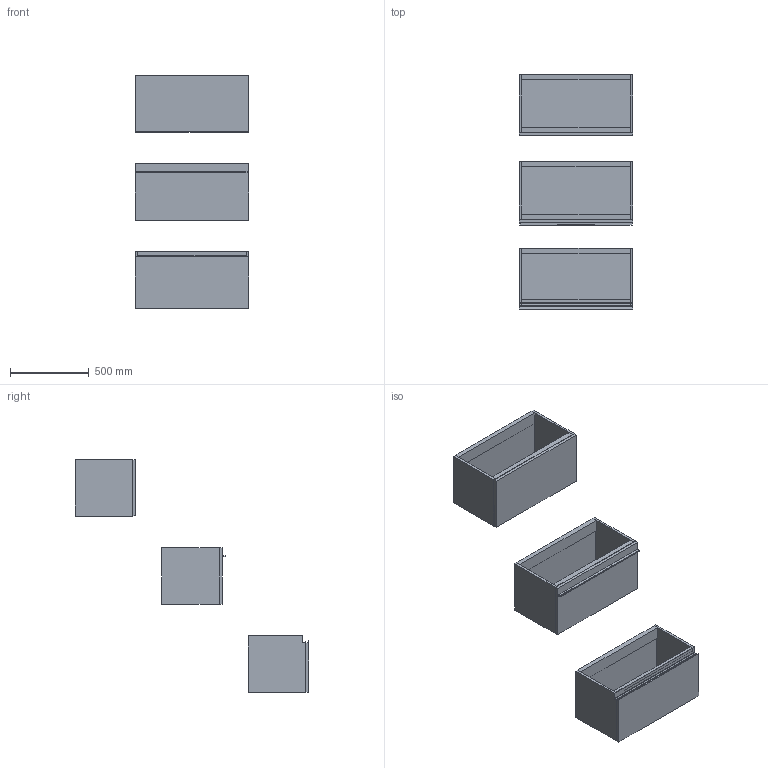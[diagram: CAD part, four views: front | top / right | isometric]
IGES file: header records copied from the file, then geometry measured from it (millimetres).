
Start section: Data from Parasolid IGES Translator 19.0.9, Copyright(c) 2006 Siemens PL M Software. All Rights Reserved.
Global section: file name: noorth-SI-H 36 D 38,8 W 72_8328.igs; native system: By Siemens PLM Incorporated; preprocessor: XPlus GENERIC/IGES 19.0.9; author: Noname; organization: Noname; date: 20200530.132453; units: metre
Bounding box: 720 x 1485.1 x 1480.01 mm (x, y, z)
Volume: 46849946 mm3; surface area: 7084774.1 mm2
Topology: 23 solids, 23 shells, 196 faces, 418 edges, 258 vertices
Faces by surface type: plane 152, extrusion 16, bspline 16, cylinder 12
